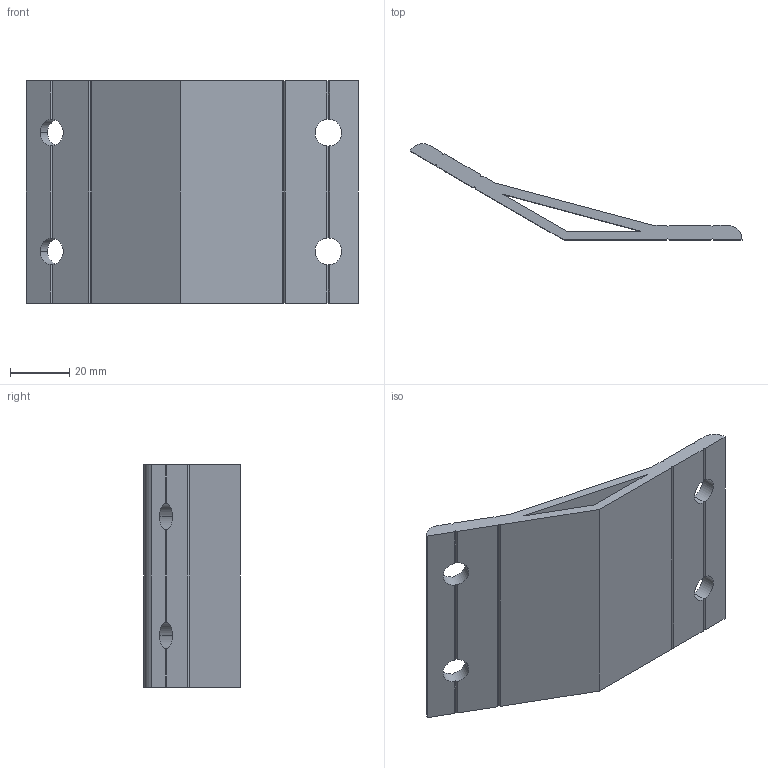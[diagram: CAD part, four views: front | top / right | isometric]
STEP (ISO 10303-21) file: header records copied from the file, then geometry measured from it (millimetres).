
FILE_DESCRIPTION (( 'STEP AP203' ), '1' );
FILE_NAME ('WA75150-8.STEP', '2024-02-19T06:20:26', ( '' ), ( '' ), 'SwSTEP 2.0', 'SolidWorks 2022', '' );
FILE_SCHEMA (( 'CONFIG_CONTROL_DESIGN' ));
Length unit declared in the file: millimetre
Products named in the file (1): WA75150-8
Bounding box: 111.96 x 32.5 x 75 mm (x, y, z)
Volume: 45896.9 mm3; surface area: 26981.9 mm2
Topology: 1 solids, 1 shells, 60 faces, 190 edges, 124 vertices
Faces by surface type: plane 50, cylinder 10
Entity records: 2175 total; most frequent: CARTESIAN_POINT 471, ORIENTED_EDGE 380, DIRECTION 308, EDGE_CURVE 190, LINE 130, VECTOR 130, VERTEX_POINT 124, AXIS2_PLACEMENT_3D 89
